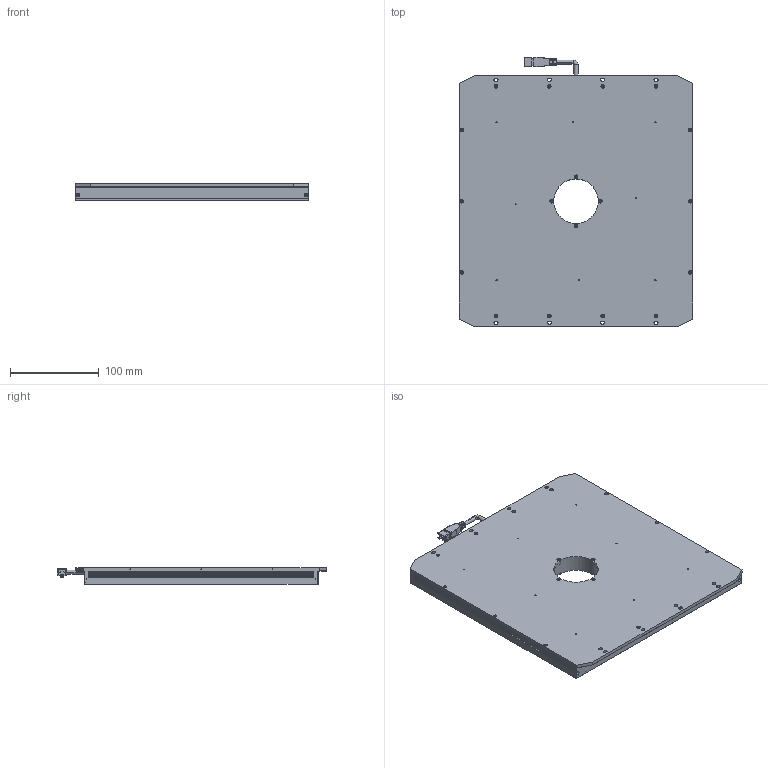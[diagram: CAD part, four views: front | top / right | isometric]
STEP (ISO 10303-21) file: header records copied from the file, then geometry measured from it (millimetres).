
FILE_DESCRIPTION((''),'2;1');
FILE_NAME('LS-LBES-H-250-250-X2','2022-11-04T11:57:34',('LumaSpec Vision'),('LumaSpec Vision'),'CREO PARAMETRIC BY PTC INC, 2020044','CREO PARAMETRIC BY PTC INC, 2020044','');
FILE_SCHEMA(('AUTOMOTIVE_DESIGN { 1 0 10303 214 1 1 1 1 }'));
Products named in the file (1): PRT0001
Bounding box: 263 x 302.75 x 19 mm (x, y, z)
Volume: 1295007.5 mm3; surface area: 176325.7 mm2
Topology: 1 solids, 82 shells, 2365 faces, 5497 edges, 3311 vertices
Faces by surface type: plane 1402, cylinder 627, cone 226, torus 94, sphere 8, bspline 8
Entity records: 68128 total; most frequent: CARTESIAN_POINT 13068, DIRECTION 11327, ORIENTED_EDGE 10910, EDGE_CURVE 5455, AXIS2_PLACEMENT_3D 3899, VECTOR 3529, LINE 3529, VERTEX_POINT 3311
